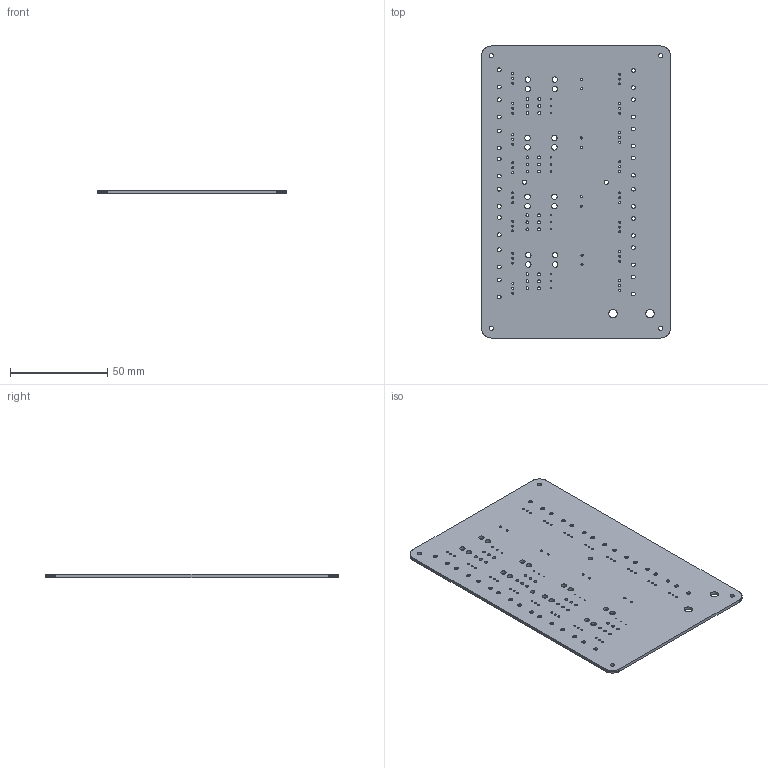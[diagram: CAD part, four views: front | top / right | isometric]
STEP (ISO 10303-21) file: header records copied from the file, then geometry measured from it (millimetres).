
FILE_DESCRIPTION(('KiCad electronic assembly'),'2;1');
FILE_NAME('NVoltageModule.step','2023-12-18T17:00:31',('Pcbnew'),( 'Kicad'),'Open CASCADE STEP processor 7.6','KiCad to STEP converter' ,'Unknown');
FILE_SCHEMA(('AUTOMOTIVE_DESIGN { 1 0 10303 214 1 1 1 1 }'));
Length unit declared in the file: millimetre
Products named in the file (2): NVoltageModule 1; NegativeVoltageModule PCB
Assembly tree (1 placements, depth 2):
  NVoltageModule 1
    NegativeVoltageModule PCB
Bounding box: 97 x 150 x 1.55 mm (x, y, z)
Volume: 21992.7 mm3; surface area: 30251.1 mm2
Topology: 1 solids, 1 shells, 1218 faces, 3648 edges, 2432 vertices
Faces by surface type: plane 1102, cylinder 116
Full cylindrical faces by diameter (mm): 0.6 x12, 1 x48, 1.1 x8, 1.5 x24, 2.2 x6, 2.8 x16, 4.3 x2
Entity records: 89143 total; most frequent: CARTESIAN_POINT 15988, DIRECTION 13384, LINE 10480, VECTOR 10480, ORIENTED_EDGE 7296, PCURVE 7296, DEFINITIONAL_REPRESENTATION 7296, EDGE_CURVE 3648
